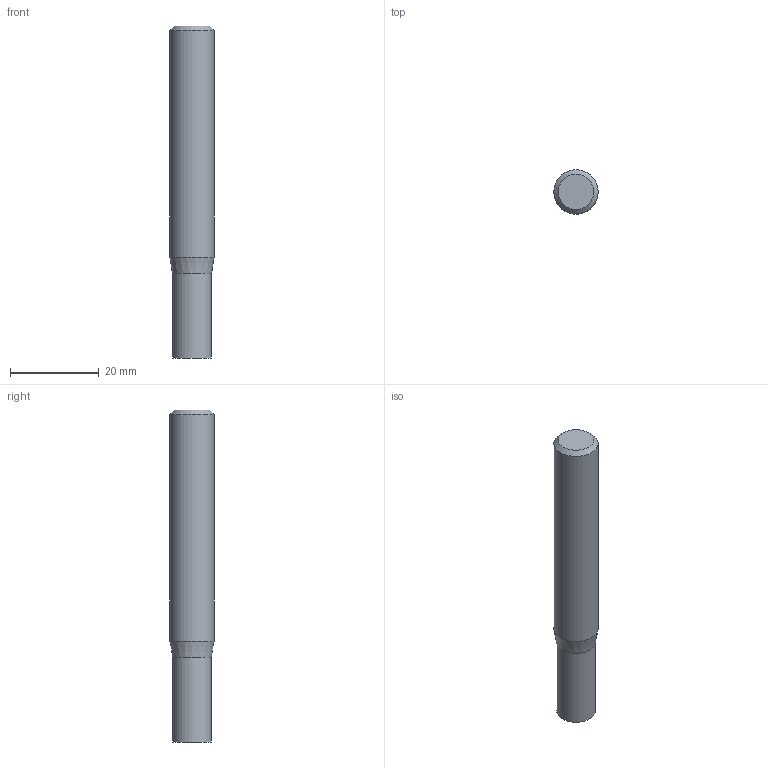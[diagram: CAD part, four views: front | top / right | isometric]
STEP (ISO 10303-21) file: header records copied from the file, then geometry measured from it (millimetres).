
FILE_DESCRIPTION((''),'2;1');
FILE_NAME('C:\Users\nsx150\AppData\Local\Temp\Mastercam 2021\98T1Q6BTT1\TEMP.step','2021-10-21T14:49:45',(''),(''),'STEP Write','Mastercam 2021 ... CNC Software, Inc.','');
FILE_SCHEMA(('AUTOMOTIVE_DESIGN'));
Length unit declared in the file: millimetre
Products named in the file (1): None
Bounding box: 10 x 10 x 75 mm (x, y, z)
Volume: 5504.9 mm3; surface area: 2520.1 mm2
Topology: 2 solids, 2 shells, 8 faces, 10 edges, 6 vertices
Faces by surface type: plane 4, cylinder 2, cone 2
Full cylindrical faces by diameter (mm): 8.8 x1, 10 x1
Entity records: 190 total; most frequent: DIRECTION 32, CARTESIAN_POINT 22, AXIS2_PLACEMENT_3D 16, ORIENTED_EDGE 12, EDGE_LOOP 12, STYLED_ITEM 11, ADVANCED_FACE 8, VERTEX_POINT 6
